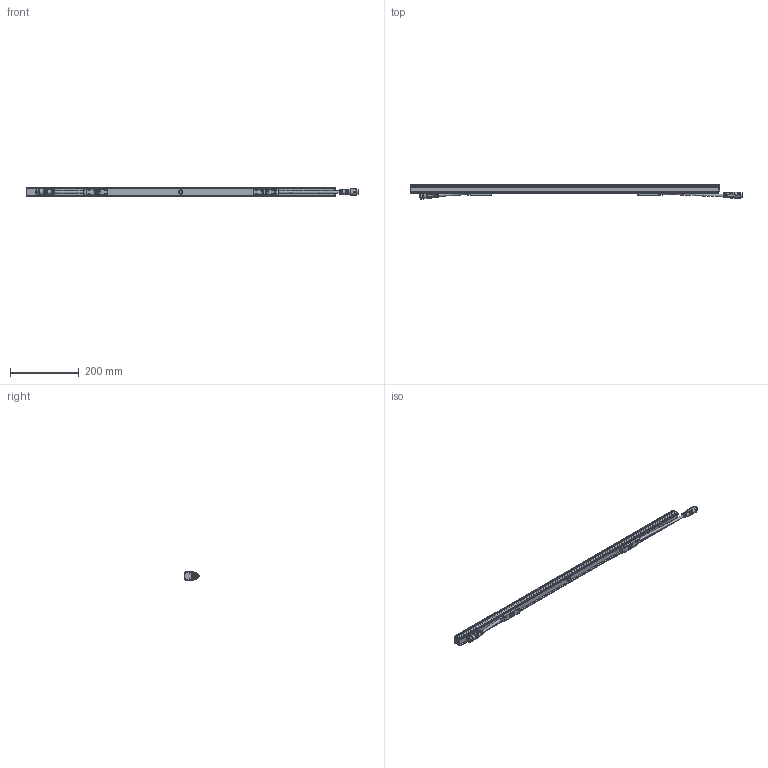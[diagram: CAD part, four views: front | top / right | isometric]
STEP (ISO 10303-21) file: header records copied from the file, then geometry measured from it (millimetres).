
FILE_DESCRIPTION (( 'STEP AP214' ), '1' );
FILE_NAME ('DiGi Linear D-Series 2 L900.STEP', '2025-11-24T13:51:22', ( '' ), ( '' ), 'SwSTEP 2.0', 'SolidWorks 2025', '' );
FILE_SCHEMA (( 'AUTOMOTIVE_DESIGN' ));
Length unit declared in the file: millimetre
Products named in the file (9): Part1^DiGi Linear D-Series 2; M16 5p Female; D series 2 body_900; M16 5p Male; D & E Series 2 breathing valve; Counter sunk screw torx_M2x6; Counter sunk screw torx_M2.5x16; Part2^DiGi Linear D-Series 2; DiGi Linear D-Series 2 L900
Assembly tree (22 placements, depth 2):
  DiGi Linear D-Series 2 L900
    D series 2 body_900
    Counter sunk screw torx_M2.5x16  x8
    Counter sunk screw torx_M2x6  x8
    M16 5p Female
    Part1^DiGi Linear D-Series 2
    M16 5p Male
    Part2^DiGi Linear D-Series 2
    D & E Series 2 breathing valve
Bounding box: 965.31 x 41.62 x 24 mm (x, y, z)
Volume: 459730.9 mm3; surface area: 158409.5 mm2
Topology: 27 solids, 30 shells, 2090 faces, 5236 edges, 3359 vertices
Faces by surface type: plane 910, cylinder 791, bspline 130, torus 127, cone 118, sphere 14
Full cylindrical faces by diameter (mm): 1.8 x4, 2 x8, 2.5 x8, 3 x8, 4.5 x8, 9.2 x1, 11.1 x1, 14.25 x1, 14.3 x1, 18 x1
Entity records: 73755 total; most frequent: CARTESIAN_POINT 22348, ORIENTED_EDGE 9066, DIRECTION 8577, EDGE_CURVE 4533, AXIS2_PLACEMENT_3D 3104, VERTEX_POINT 2925, LINE 2369, VECTOR 2369
